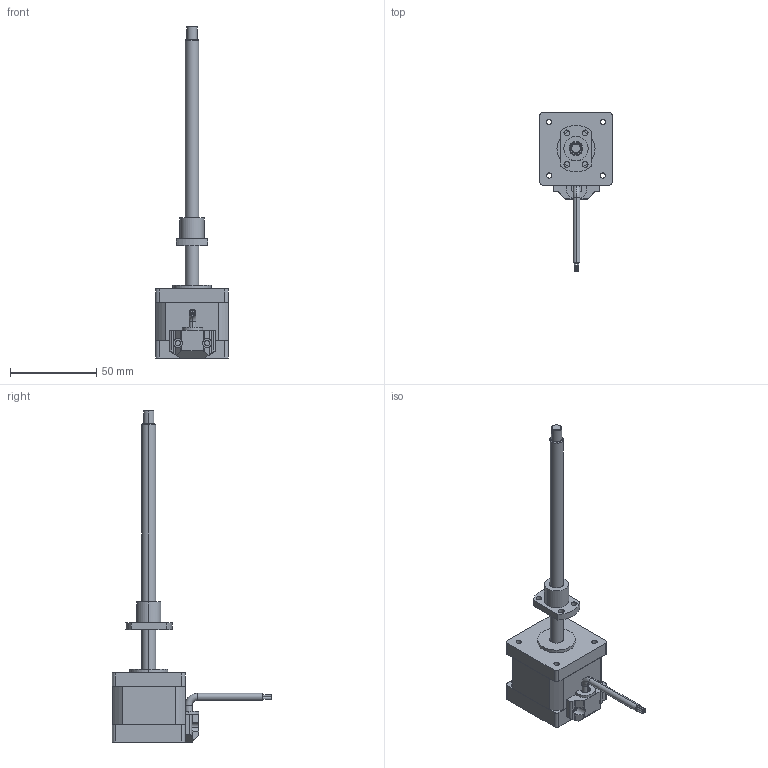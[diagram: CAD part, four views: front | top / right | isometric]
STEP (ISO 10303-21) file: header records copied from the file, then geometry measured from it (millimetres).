
FILE_DESCRIPTION (( 'STEP AP203' ), '1' );
FILE_NAME ('42E240-BS0802-1.5-4-152-001.STEP', '2019-11-27T04:07:37', ( '' ), ( '' ), 'SwSTEP 2.0', 'SolidWorks 2017', '' );
FILE_SCHEMA (( 'CONFIG_CONTROL_DESIGN' ));
Length unit declared in the file: millimetre
Products named in the file (1): 42E240-BS0802-1.5-4-152-001
Bounding box: 42 x 92 x 192 mm (x, y, z)
Volume: 81953.9 mm3; surface area: 21444.1 mm2
Topology: 3 solids, 3 shells, 157 faces, 406 edges, 267 vertices
Faces by surface type: cylinder 92, plane 59, cone 4, torus 2
Entity records: 5046 total; most frequent: CARTESIAN_POINT 921, DIRECTION 885, ORIENTED_EDGE 812, EDGE_CURVE 406, AXIS2_PLACEMENT_3D 339, VERTEX_POINT 267, VECTOR 207, EDGE_LOOP 207
